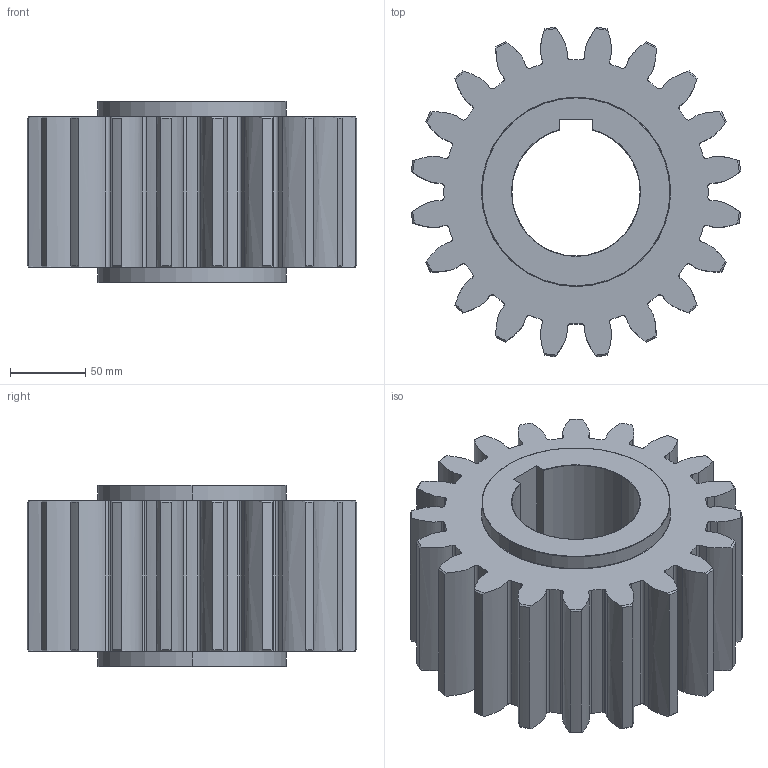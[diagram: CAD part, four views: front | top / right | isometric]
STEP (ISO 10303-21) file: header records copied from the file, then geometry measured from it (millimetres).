
FILE_DESCRIPTION (( 'STEP AP214' ), '1' );
FILE_NAME ('1SG__S100020S.STEP', '2021-08-03T07:59:24', ( '' ), ( '' ), 'SwSTEP 2.0', 'SolidWorks 2021', '' );
FILE_SCHEMA (( 'AUTOMOTIVE_DESIGN' ));
Length unit declared in the file: millimetre
Products named in the file (1): 1SG__S100020S
Bounding box: 218.27 x 218.27 x 120 mm (x, y, z)
Volume: 2615974.1 mm3; surface area: 219096.9 mm2
Topology: 1 solids, 1 shells, 218 faces, 670 edges, 456 vertices
Faces by surface type: cylinder 77, bspline 60, cone 50, plane 27, torus 4
Entity records: 14512 total; most frequent: CARTESIAN_POINT 8717, ORIENTED_EDGE 1340, DIRECTION 1076, EDGE_CURVE 670, VERTEX_POINT 456, AXIS2_PLACEMENT_3D 411, LINE 254, VECTOR 254
